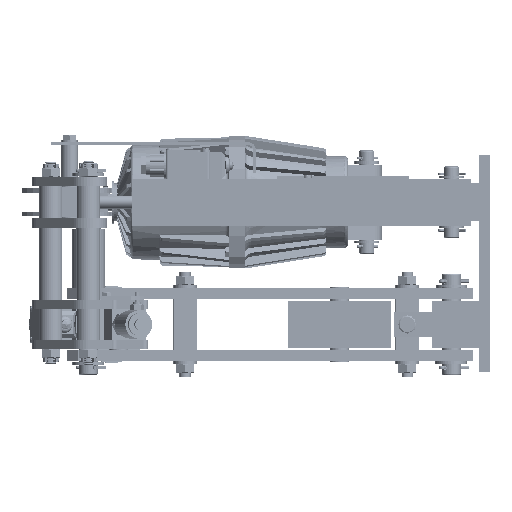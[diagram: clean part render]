
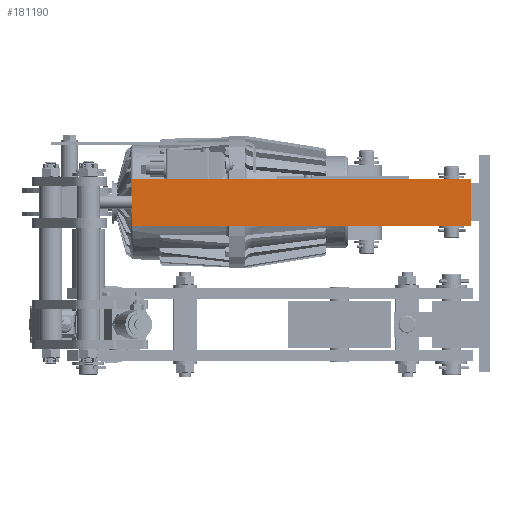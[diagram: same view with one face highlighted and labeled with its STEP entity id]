
A CAD part, left-side view. The second image highlights one B-rep face of the part: STEP entity #181190.
In plain terms, the highlighted planar face has unit normal (1, 0, 0).
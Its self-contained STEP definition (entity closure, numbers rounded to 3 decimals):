
#180291=DIRECTION('',(0.,0.,-1.));
#180292=VECTOR('',#180291,50.);
#180293=CARTESIAN_POINT('',(475.267,664.646,
119.996));
#180294=LINE('',#180293,#180292);
#180406=DIRECTION('',(0.,1.,0.));
#180407=VECTOR('',#180406,360.);
#180408=CARTESIAN_POINT('',(475.267,664.646,
119.996));
#180409=LINE('',#180408,#180407);
#180413=DIRECTION('',(0.,-1.,0.));
#180414=VECTOR('',#180413,360.);
#180415=CARTESIAN_POINT('',(475.267,1024.646,
69.996));
#180416=LINE('',#180415,#180414);
#180739=DIRECTION('',(0.,0.,-1.));
#180740=VECTOR('',#180739,50.);
#180741=CARTESIAN_POINT('',(475.267,1024.646,
119.996));
#180742=LINE('',#180741,#180740);
#180942=CARTESIAN_POINT('',(475.267,664.646,
69.996));
#180944=VERTEX_POINT('',#180942);
#180948=CARTESIAN_POINT('',(475.267,1024.646,
69.996));
#180949=VERTEX_POINT('',#180948);
#180954=CARTESIAN_POINT('',(475.267,664.646,
119.996));
#180955=VERTEX_POINT('',#180954);
#180956=CARTESIAN_POINT('',(475.267,1024.646,
119.996));
#180957=VERTEX_POINT('',#180956);
#181177=CARTESIAN_POINT('',(475.267,844.646,
94.996));
#181178=DIRECTION('',(1.,0.,0.));
#181179=DIRECTION('',(0.,-1.,0.));
#181180=AXIS2_PLACEMENT_3D('',#181177,#181178,#181179);
#181181=PLANE('',#181180);
#181182=ORIENTED_EDGE('',*,*,#181140,.F.);
#181184=ORIENTED_EDGE('',*,*,#181183,.T.);
#181186=ORIENTED_EDGE('',*,*,#181185,.T.);
#181187=ORIENTED_EDGE('',*,*,#181158,.T.);
#181188=EDGE_LOOP('',(#181182,#181184,#181186,#181187));
#181189=FACE_OUTER_BOUND('',#181188,.F.);
#181190=ADVANCED_FACE('',(#181189),#181181,.T.);
#181140=EDGE_CURVE('',#180955,#180944,#180294,.T.);
#181158=EDGE_CURVE('',#180949,#180944,#180416,.T.);
#181183=EDGE_CURVE('',#180955,#180957,#180409,.T.);
#181185=EDGE_CURVE('',#180957,#180949,#180742,.T.);
